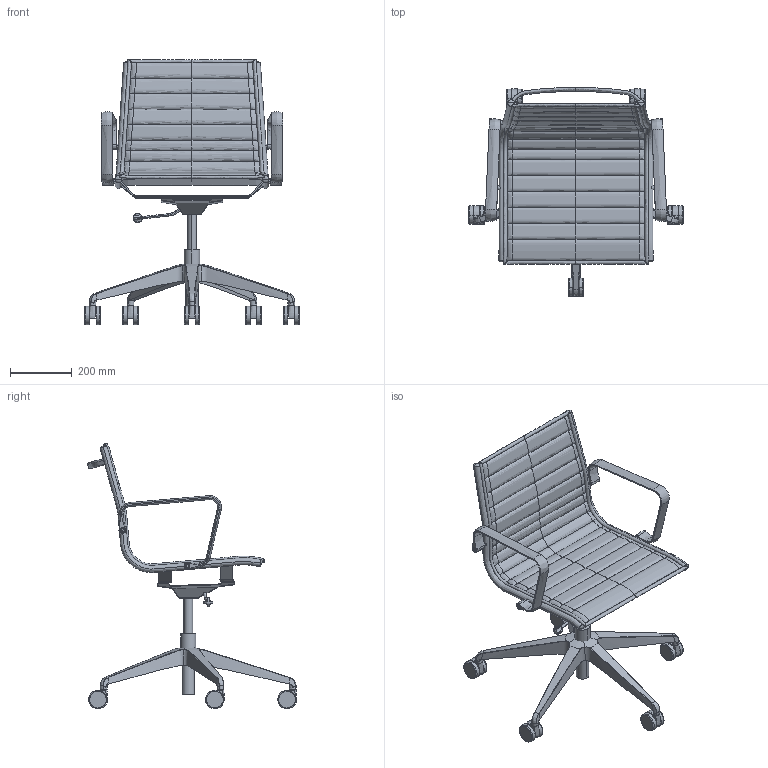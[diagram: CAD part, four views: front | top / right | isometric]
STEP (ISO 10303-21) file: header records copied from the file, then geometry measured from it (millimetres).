
FILE_DESCRIPTION(/* description */ (''),/* implementation_level */ '2;1');
FILE_NAME(/* name */ 'FLY712~1',/* time_stamp */ '2017-10-19T14:47:21+02:00',/* author */ (''),/* organization */ (''),/* preprocessor_version */ 'ST-DEVELOPER v15',/* originating_system */ '',/* authorisation */ '');
FILE_SCHEMA (('CONFIG_CONTROL_DESIGN'));
Length unit declared in the file: millimetre
Products named in the file (1): Document
Bounding box: 694.82 x 677.87 x 861.82 mm (x, y, z)
Volume: 1948303.3 mm3; surface area: 1639471.6 mm2
Topology: 12 solids, 48 shells, 557 faces, 1350 edges, 811 vertices
Faces by surface type: bspline 432, plane 125
Entity records: 36639 total; most frequent: CARTESIAN_POINT 28966, ORIENTED_EDGE 2446, EDGE_CURVE 1310, VERTEX_POINT 805, B_SPLINE_CURVE_WITH_KNOTS 668, EDGE_LOOP 569, ADVANCED_FACE 557, FACE_OUTER_BOUND 557
